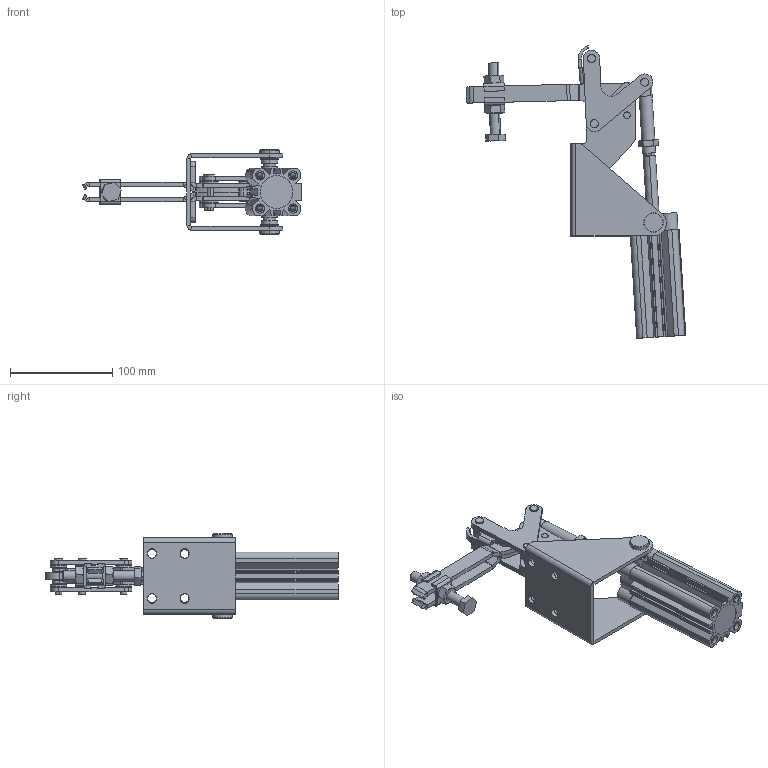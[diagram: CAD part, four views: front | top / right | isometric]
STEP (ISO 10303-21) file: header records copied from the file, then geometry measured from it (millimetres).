
FILE_DESCRIPTION (( 'STEP AP203' ), '1' );
FILE_NAME ('KF-311 DB P.STEP', '2016-12-15T13:35:11', ( 'Ricardo' ), ( '' ), 'SwSTEP 2.0', 'SolidWorks 2015', '' );
FILE_SCHEMA (( 'CONFIG_CONTROL_DESIGN' ));
Length unit declared in the file: millimetre
Products named in the file (26): 05.20021; 2 PC 21287; 04.10002; 15.20011; 3 PC 21287; 16.20070; 06.50007; 2800320600CP_avan㌢do; 05.20005; 06.50019; 3670000148; KF-311 DB P; 12.50004; 15.10060; 11.50003; 16.20067; 02.12023_Direita; 14.10003; 501-016; 02.12023_Esquerda; 01.10092; CNKFE032KT; 03.14004_Direita; 17.50008; 1 PC 21287; 03.14004_Esquerda
Assembly tree (36 placements, depth 3):
  KF-311 DB P
    02.12023_Direita
    02.12023_Esquerda
    03.14004_Direita
    03.14004_Esquerda
    04.10002
    16.20070
    05.20005
    12.50004
    11.50003  x2
    14.10003  x2
    01.10092  x2
    17.50008  x4
    05.20021  x2
    15.20011
    06.50007
    3670000148  x3
    06.50019
    15.10060
    16.20067  x2
    501-016  x2
    CNKFE032KT
    2800320600CP_avan㌢do
      1 PC 21287
      2 PC 21287
      3 PC 21287
Bounding box: 215.27 x 286.95 x 83 mm (x, y, z)
Volume: 329476.6 mm3; surface area: 179365.3 mm2
Topology: 35 solids, 35 shells, 869 faces, 2066 edges, 1301 vertices
Faces by surface type: cylinder 402, plane 364, cone 102, sphere 1
Entity records: 24267 total; most frequent: CARTESIAN_POINT 3931, DIRECTION 3885, ORIENTED_EDGE 3390, EDGE_CURVE 1695, AXIS2_PLACEMENT_3D 1486, VERTEX_POINT 1074, LINE 913, VECTOR 913
